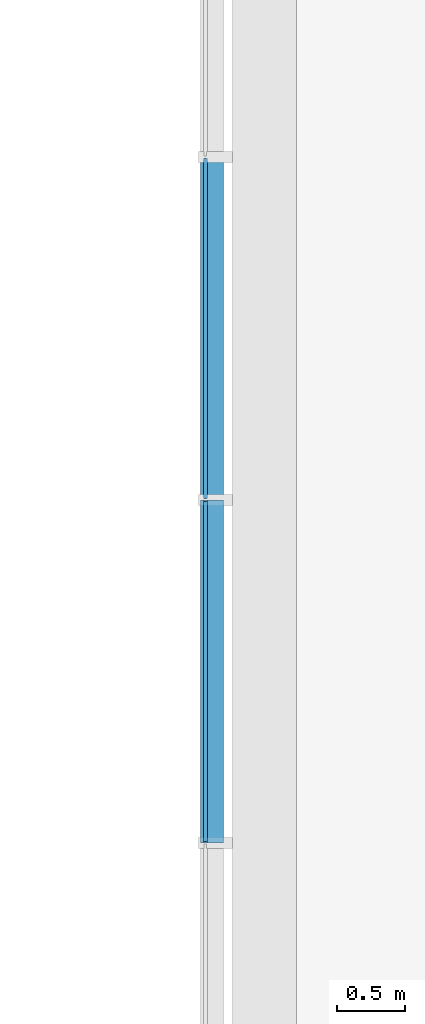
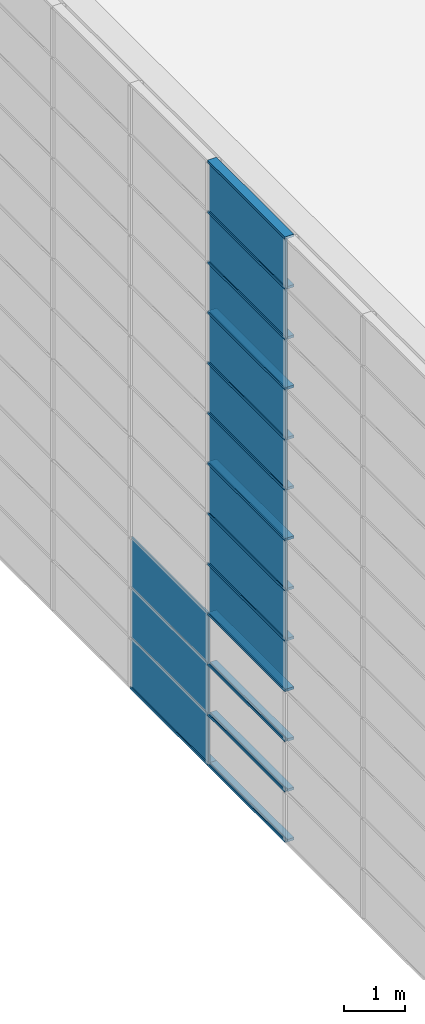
# One storey, part 8 of 105: 29 building element parts, 4 elements without a shape of their own.
"""IFC4 building model written with IfcOpenShell, lengths in millimetres."""

from ifc_helpers import new_model, entity, si_unit, converted_unit, derived_unit, direction, frame, origin_with_axes, place, context, subcontext, project, spatial, triangles, material, element, aggregate, save


model = new_model("IFC4")

# Units and contexts
model_context = context("Model", 3, precision=1e-05, world=origin_with_axes(), true_north=direction((0.0, 1.0)))
body_context = subcontext(model_context, "Body", "Model", "MODEL_VIEW")
ifc_project = project(units=[si_unit("LENGTHUNIT", "METRE", prefix="MILLI"), si_unit("AREAUNIT", "SQUARE_METRE"), si_unit("VOLUMEUNIT", "CUBIC_METRE"), converted_unit("PLANEANGLEUNIT", "DEGREE", entity("IfcLengthMeasure", 0.017453), si_unit("PLANEANGLEUNIT", "RADIAN"), dimensions=[0, 0, 0, 0, 0, 0, 0]), si_unit("SOLIDANGLEUNIT", "STERADIAN"), si_unit("MASSUNIT", "GRAM"), si_unit("TIMEUNIT", "SECOND"), si_unit("THERMODYNAMICTEMPERATUREUNIT", "DEGREE_CELSIUS"), si_unit("LUMINOUSINTENSITYUNIT", "LUMEN"), si_unit("POWERUNIT", "WATT"), derived_unit("THERMALTRANSMITTANCEUNIT", [(si_unit("POWERUNIT", "WATT"), 1), (si_unit("THERMODYNAMICTEMPERATUREUNIT", "KELVIN"), -1), (si_unit("AREAUNIT", "SQUARE_METRE"), -1)])], contexts=[model_context])

# Site, building, storey
site_placement = place(None, origin_with_axes())
site = spatial("IfcSite", under=ifc_project, at=site_placement, Name="Default Site", CompositionType="ELEMENT")
building_placement = place(site_placement, origin_with_axes())
building = spatial("IfcBuilding", under=site, at=building_placement, Name="Default Building", CompositionType="ELEMENT")
storey_placement = place(building_placement, origin_with_axes())
storey = spatial("IfcBuildingStorey", under=building, at=storey_placement, Name="OG - Story", CompositionType="ELEMENT", Elevation=0.0)

# Curtain wall, building element parts
curtain_wall_1_placement = place(storey_placement, origin_with_axes())
curtain_wall_1 = element("IfcCurtainWall", 1, at=curtain_wall_1_placement, inside=storey, Name="Fassade-003", PredefinedType="NOTDEFINED")
ifc_material_1 = material(Name="Normalglas")
building_element_part_1_placement = place(curtain_wall_1_placement, frame((31551.391327, -51326.104944, 0.0), z_axis=(0.0, 0.0, 1.0), x_axis=(1.0, 0.0, 0.0)))
building_element_part_1 = element("IfcBuildingElementPart", 2, at=building_element_part_1_placement, material=ifc_material_1, Name="Normalglas", PredefinedType="NOTDEFINED", context=body_context, shape_type="Tessellation", body=[
    triangles([(15.0, 8832.105, 995.0), (-14.999, 8832.105, 995.0), (-14.999, 6325.789, 995.0), (15.0, 6325.789, 995.0), (15.0, 8832.105, 5.0), (-14.999, 8832.105, 5.0), (-14.999, 6325.789, 5.0), (15.0, 6325.789, 5.0)], [[1, 2, 3], [1, 3, 4], [5, 6, 2], [5, 2, 1], [2, 6, 7], [2, 7, 3], [4, 3, 7], [4, 7, 8], [1, 4, 8], [1, 8, 5], [8, 7, 6], [8, 6, 5]], closed=False),
])
building_element_part_2_placement = place(curtain_wall_1_placement, frame((31551.391327, -51326.104944, 0.0), z_axis=(0.0, 0.0, 1.0), x_axis=(1.0, 0.0, 0.0)))
building_element_part_2 = element("IfcBuildingElementPart", 3, at=building_element_part_2_placement, material=ifc_material_1, Name="Normalglas", PredefinedType="NOTDEFINED", context=body_context, shape_type="Tessellation", body=[
    triangles([(15.0, 8832.105, 1995.0), (-14.999, 8832.105, 1995.0), (-14.999, 6325.789, 1995.0), (15.0, 6325.789, 1995.0), (15.0, 8832.105, 1005.0), (-14.999, 8832.105, 1005.0), (-14.999, 6325.789, 1005.0), (15.0, 6325.789, 1005.0)], [[1, 2, 3], [1, 3, 4], [5, 6, 2], [5, 2, 1], [2, 6, 7], [2, 7, 3], [4, 3, 7], [4, 7, 8], [1, 4, 8], [1, 8, 5], [8, 7, 6], [8, 6, 5]], closed=False),
])
building_element_part_3_placement = place(curtain_wall_1_placement, frame((31551.391327, -51326.104944, 0.0), z_axis=(0.0, 0.0, 1.0), x_axis=(1.0, 0.0, 0.0)))
building_element_part_3 = element("IfcBuildingElementPart", 4, at=building_element_part_3_placement, material=ifc_material_1, Name="Normalglas", PredefinedType="NOTDEFINED", context=body_context, shape_type="Tessellation", body=[
    triangles([(15.0, 8832.105, 2995.0), (-14.999, 8832.105, 2995.0), (-14.999, 6325.789, 2995.0), (15.0, 6325.789, 2995.0), (15.0, 8832.105, 2005.0), (-14.999, 8832.105, 2005.0), (-14.999, 6325.789, 2005.0), (15.0, 6325.789, 2005.0)], [[1, 2, 3], [1, 3, 4], [5, 6, 2], [5, 2, 1], [2, 6, 7], [2, 7, 3], [4, 3, 7], [4, 7, 8], [1, 4, 8], [1, 8, 5], [8, 7, 6], [8, 6, 5]], closed=False),
])
ifc_material_2 = material(Name="Blech")
building_element_part_4_placement = place(curtain_wall_1_placement, frame((31551.391327, -51326.104944, 0.0), z_axis=(0.0, 0.0, 1.0), x_axis=(1.0, 0.0, 0.0)))
building_element_part_4 = element("IfcBuildingElementPart", 5, at=building_element_part_4_placement, material=ifc_material_2, Name="Blech", PredefinedType="NOTDEFINED", context=body_context, shape_type="Tessellation", body=[
    triangles([(15.0, 6315.789, 25.0), (133.0, 6315.789, 25.0), (15.0, 6315.789, 5.0), (133.0, 6315.789, -24.999), (-14.999, 6315.789, 5.0), (-34.999, 6315.789, -24.999), (-34.999, 6315.789, 25.0), (-14.999, 6315.789, 25.0), (15.0, 3789.474, 5.0), (15.0, 3789.474, 25.0), (133.0, 3789.474, 25.0), (133.0, 3789.474, -24.999), (-34.999, 3789.474, -24.999), (-34.999, 3789.474, 25.0), (-14.999, 3789.474, 25.0), (-14.999, 3789.474, 5.0)], [[1, 2, 3], [3, 2, 4], [3, 4, 5], [5, 4, 6], [5, 6, 7], [5, 7, 8], [3, 9, 10], [3, 10, 1], [10, 11, 2], [10, 2, 1], [11, 12, 4], [11, 4, 2], [12, 13, 6], [12, 6, 4], [13, 14, 7], [13, 7, 6], [8, 7, 14], [8, 14, 15], [15, 16, 5], [15, 5, 8], [5, 16, 9], [5, 9, 3], [16, 9, 12], [16, 12, 13], [16, 13, 14], [16, 14, 15], [11, 12, 9], [11, 9, 10]], closed=False),
])
building_element_part_5_placement = place(curtain_wall_1_placement, frame((31551.391327, -51326.104944, 0.0), z_axis=(0.0, 0.0, 1.0), x_axis=(1.0, 0.0, 0.0)))
building_element_part_5 = element("IfcBuildingElementPart", 6, at=building_element_part_5_placement, material=ifc_material_2, Name="Blech", PredefinedType="NOTDEFINED", context=body_context, shape_type="Tessellation", body=[
    triangles([(15.0, 8842.105, 25.0), (133.0, 8842.105, 25.0), (15.0, 8842.105, 5.0), (133.0, 8842.105, -24.999), (-14.999, 8842.105, 5.0), (-34.999, 8842.105, -24.999), (-34.999, 8842.105, 25.0), (-14.999, 8842.105, 25.0), (15.0, 6315.789, 5.0), (15.0, 6315.789, 25.0), (133.0, 6315.789, 25.0), (133.0, 6315.789, -24.999), (-34.999, 6315.789, -24.999), (-34.999, 6315.789, 25.0), (-14.999, 6315.789, 25.0), (-14.999, 6315.789, 5.0)], [[1, 2, 3], [3, 2, 4], [3, 4, 5], [5, 4, 6], [5, 6, 7], [5, 7, 8], [3, 9, 10], [3, 10, 1], [10, 11, 2], [10, 2, 1], [11, 12, 4], [11, 4, 2], [12, 13, 6], [12, 6, 4], [13, 14, 7], [13, 7, 6], [8, 7, 14], [8, 14, 15], [15, 16, 5], [15, 5, 8], [5, 16, 9], [5, 9, 3], [16, 9, 12], [16, 12, 13], [16, 13, 14], [16, 14, 15], [11, 12, 9], [11, 9, 10]], closed=False),
])
building_element_part_6_placement = place(curtain_wall_1_placement, frame((31551.391327, -51326.104944, 0.0), z_axis=(0.0, 0.0, 1.0), x_axis=(1.0, 0.0, 0.0)))
building_element_part_6 = element("IfcBuildingElementPart", 7, at=building_element_part_6_placement, material=ifc_material_2, Name="Blech", PredefinedType="NOTDEFINED", context=body_context, shape_type="Tessellation", body=[
    triangles([(-14.999, 6315.789, 1025.0), (-34.999, 6315.789, 1025.0), (-14.999, 6315.789, 1005.0), (-14.999, 6315.789, 995.0), (15.0, 6315.789, 1005.0), (133.0, 6315.789, 1025.0), (15.0, 6315.789, 1025.0), (-34.999, 6315.789, 975.0), (-14.999, 6315.789, 975.0), (15.0, 6315.789, 995.0), (15.0, 6315.789, 975.0), (133.0, 6315.789, 975.0), (15.0, 3789.474, 995.0), (-14.999, 3789.474, 995.0), (-14.999, 3789.474, 975.0), (-34.999, 3789.474, 975.0), (-34.999, 3789.474, 1025.0), (-14.999, 3789.474, 1025.0), (-14.999, 3789.474, 1005.0), (15.0, 3789.474, 1005.0), (15.0, 3789.474, 1025.0), (133.0, 3789.474, 1025.0), (133.0, 3789.474, 975.0), (15.0, 3789.474, 975.0)], [[1, 2, 3], [3, 2, 4], [3, 4, 5], [5, 4, 6], [5, 6, 7], [8, 9, 4], [8, 4, 2], [6, 4, 10], [6, 10, 11], [6, 11, 12], [10, 13, 14], [10, 14, 4], [4, 14, 15], [4, 15, 9], [15, 16, 8], [15, 8, 9], [8, 16, 17], [8, 17, 2], [18, 1, 2], [18, 2, 17], [1, 18, 19], [1, 19, 3], [5, 3, 19], [5, 19, 20], [7, 5, 20], [7, 20, 21], [7, 21, 22], [7, 22, 6], [6, 22, 23], [6, 23, 12], [11, 12, 23], [11, 23, 24], [11, 24, 13], [11, 13, 10], [21, 22, 20], [20, 22, 13], [20, 13, 19], [19, 13, 14], [19, 14, 17], [17, 14, 15], [17, 15, 16], [23, 24, 13], [23, 13, 22], [19, 17, 18]], closed=False),
])
building_element_part_7_placement = place(curtain_wall_1_placement, frame((31551.391327, -51326.104944, 0.0), z_axis=(0.0, 0.0, 1.0), x_axis=(1.0, 0.0, 0.0)))
building_element_part_7 = element("IfcBuildingElementPart", 8, at=building_element_part_7_placement, material=ifc_material_2, Name="Blech", PredefinedType="NOTDEFINED", context=body_context, shape_type="Tessellation", body=[
    triangles([(-14.999, 6315.789, 2025.0), (-34.999, 6315.789, 2025.0), (-14.999, 6315.789, 2005.0), (-14.999, 6315.789, 1995.0), (15.0, 6315.789, 2005.0), (133.0, 6315.789, 2025.0), (15.0, 6315.789, 2025.0), (-34.999, 6315.789, 1975.0), (-14.999, 6315.789, 1975.0), (15.0, 6315.789, 1995.0), (15.0, 6315.789, 1975.0), (133.0, 6315.789, 1975.0), (15.0, 3789.474, 1995.0), (-14.999, 3789.474, 1995.0), (-14.999, 3789.474, 1975.0), (-34.999, 3789.474, 1975.0), (-34.999, 3789.474, 2025.0), (-14.999, 3789.474, 2025.0), (-14.999, 3789.474, 2005.0), (15.0, 3789.474, 2005.0), (15.0, 3789.474, 2025.0), (133.0, 3789.474, 2025.0), (133.0, 3789.474, 1975.0), (15.0, 3789.474, 1975.0)], [[1, 2, 3], [3, 2, 4], [3, 4, 5], [5, 4, 6], [5, 6, 7], [8, 9, 4], [8, 4, 2], [6, 4, 10], [6, 10, 11], [6, 11, 12], [10, 13, 14], [10, 14, 4], [4, 14, 15], [4, 15, 9], [15, 16, 8], [15, 8, 9], [8, 16, 17], [8, 17, 2], [18, 1, 2], [18, 2, 17], [1, 18, 19], [1, 19, 3], [5, 3, 19], [5, 19, 20], [7, 5, 20], [7, 20, 21], [7, 21, 22], [7, 22, 6], [6, 22, 23], [6, 23, 12], [11, 12, 23], [11, 23, 24], [11, 24, 13], [11, 13, 10], [21, 22, 20], [20, 22, 13], [20, 13, 19], [19, 13, 14], [19, 14, 17], [17, 14, 15], [17, 15, 16], [23, 24, 13], [23, 13, 22], [19, 17, 18]], closed=False),
])
building_element_part_8_placement = place(curtain_wall_1_placement, frame((31551.391327, -51326.104944, 0.0), z_axis=(0.0, 0.0, 1.0), x_axis=(1.0, 0.0, 0.0)))
building_element_part_8 = element("IfcBuildingElementPart", 9, at=building_element_part_8_placement, material=ifc_material_2, Name="Blech", PredefinedType="NOTDEFINED", context=body_context, shape_type="Tessellation", body=[
    triangles([(-14.999, 6315.789, 2995.0), (15.0, 6315.789, 2995.0), (133.0, 6315.789, 3025.0), (-34.999, 6315.789, 3025.0), (-34.999, 6315.789, 2975.0), (-14.999, 6315.789, 2975.0), (15.0, 6315.789, 2975.0), (133.0, 6315.789, 2975.0), (15.0, 3789.474, 2995.0), (-14.999, 3789.474, 2995.0), (-14.999, 3789.474, 2975.0), (-34.999, 3789.474, 2975.0), (-34.999, 3789.474, 3025.0), (133.0, 3789.474, 3025.0), (133.0, 3789.474, 2975.0), (15.0, 3789.474, 2975.0)], [[1, 2, 3], [1, 3, 4], [1, 4, 5], [1, 5, 6], [7, 8, 3], [7, 3, 2], [1, 2, 9], [1, 9, 10], [11, 6, 1], [11, 1, 10], [6, 11, 12], [6, 12, 5], [13, 4, 5], [13, 5, 12], [14, 3, 4], [14, 4, 13], [15, 8, 3], [15, 3, 14], [16, 7, 8], [16, 8, 15], [2, 7, 16], [2, 16, 9], [10, 9, 14], [10, 14, 13], [10, 13, 12], [10, 12, 11], [16, 15, 14], [16, 14, 9]], closed=False),
])
aggregate(curtain_wall_1, [building_element_part_1, building_element_part_2, building_element_part_3, building_element_part_4, building_element_part_5, building_element_part_6, building_element_part_7, building_element_part_8])

curtain_wall_2_placement = place(storey_placement, origin_with_axes())
curtain_wall_2 = element("IfcCurtainWall", 10, at=curtain_wall_2_placement, inside=storey, Name="Fassade-003", PredefinedType="NOTDEFINED")
building_element_part_9_placement = place(curtain_wall_2_placement, frame((31551.391327, -51326.104944, 3000.0), z_axis=(0.0, 0.0, 1.0), x_axis=(1.0, 0.0, 0.0)))
building_element_part_9 = element("IfcBuildingElementPart", 11, at=building_element_part_9_placement, material=ifc_material_1, Name="Normalglas", PredefinedType="NOTDEFINED", context=body_context, shape_type="Tessellation", body=[
    triangles([(15.0, 6305.789, 995.0), (-14.999, 6305.789, 995.0), (-14.999, 3799.474, 995.0), (15.0, 3799.474, 995.0), (15.0, 6305.789, 5.0), (-14.999, 6305.789, 5.0), (-14.999, 3799.474, 5.0), (15.0, 3799.474, 5.0)], [[1, 2, 3], [1, 3, 4], [5, 6, 2], [5, 2, 1], [2, 6, 7], [2, 7, 3], [4, 3, 7], [4, 7, 8], [1, 4, 8], [1, 8, 5], [8, 7, 6], [8, 6, 5]], closed=False),
])
building_element_part_10_placement = place(curtain_wall_2_placement, frame((31551.391327, -51326.104944, 3000.0), z_axis=(0.0, 0.0, 1.0), x_axis=(1.0, 0.0, 0.0)))
building_element_part_10 = element("IfcBuildingElementPart", 12, at=building_element_part_10_placement, material=ifc_material_1, Name="Normalglas", PredefinedType="NOTDEFINED", context=body_context, shape_type="Tessellation", body=[
    triangles([(15.0, 6305.789, 1995.0), (-14.999, 6305.789, 1995.0), (-14.999, 3799.474, 1995.0), (15.0, 3799.474, 1995.0), (15.0, 6305.789, 1005.0), (-14.999, 6305.789, 1005.0), (-14.999, 3799.474, 1005.0), (15.0, 3799.474, 1005.0)], [[1, 2, 3], [1, 3, 4], [5, 6, 2], [5, 2, 1], [2, 6, 7], [2, 7, 3], [4, 3, 7], [4, 7, 8], [1, 4, 8], [1, 8, 5], [8, 7, 6], [8, 6, 5]], closed=False),
])
building_element_part_11_placement = place(curtain_wall_2_placement, frame((31551.391327, -51326.104944, 3000.0), z_axis=(0.0, 0.0, 1.0), x_axis=(1.0, 0.0, 0.0)))
building_element_part_11 = element("IfcBuildingElementPart", 13, at=building_element_part_11_placement, material=ifc_material_1, Name="Normalglas", PredefinedType="NOTDEFINED", context=body_context, shape_type="Tessellation", body=[
    triangles([(15.0, 6305.789, 2995.0), (-14.999, 6305.789, 2995.0), (-14.999, 3799.474, 2995.0), (15.0, 3799.474, 2995.0), (15.0, 6305.789, 2005.0), (-14.999, 6305.789, 2005.0), (-14.999, 3799.474, 2005.0), (15.0, 3799.474, 2005.0)], [[1, 2, 3], [1, 3, 4], [5, 6, 2], [5, 2, 1], [2, 6, 7], [2, 7, 3], [4, 3, 7], [4, 7, 8], [1, 4, 8], [1, 8, 5], [8, 7, 6], [8, 6, 5]], closed=False),
])
building_element_part_12_placement = place(curtain_wall_2_placement, frame((31551.391327, -51326.104944, 3000.0), z_axis=(0.0, 0.0, 1.0), x_axis=(1.0, 0.0, 0.0)))
building_element_part_12 = element("IfcBuildingElementPart", 14, at=building_element_part_12_placement, material=ifc_material_2, Name="Blech", PredefinedType="NOTDEFINED", context=body_context, shape_type="Tessellation", body=[
    triangles([(15.0, 6315.789, 25.0), (133.0, 6315.789, 25.0), (15.0, 6315.789, 5.0), (133.0, 6315.789, -24.999), (-14.999, 6315.789, 5.0), (-34.999, 6315.789, -24.999), (-34.999, 6315.789, 25.0), (-14.999, 6315.789, 25.0), (15.0, 3789.474, 5.0), (15.0, 3789.474, 25.0), (133.0, 3789.474, 25.0), (133.0, 3789.474, -24.999), (-34.999, 3789.474, -24.999), (-34.999, 3789.474, 25.0), (-14.999, 3789.474, 25.0), (-14.999, 3789.474, 5.0)], [[1, 2, 3], [3, 2, 4], [3, 4, 5], [5, 4, 6], [5, 6, 7], [5, 7, 8], [3, 9, 10], [3, 10, 1], [10, 11, 2], [10, 2, 1], [11, 12, 4], [11, 4, 2], [12, 13, 6], [12, 6, 4], [13, 14, 7], [13, 7, 6], [8, 7, 14], [8, 14, 15], [15, 16, 5], [15, 5, 8], [5, 16, 9], [5, 9, 3], [16, 9, 12], [16, 12, 13], [16, 13, 14], [16, 14, 15], [11, 12, 9], [11, 9, 10]], closed=False),
])
building_element_part_13_placement = place(curtain_wall_2_placement, frame((31551.391327, -51326.104944, 3000.0), z_axis=(0.0, 0.0, 1.0), x_axis=(1.0, 0.0, 0.0)))
building_element_part_13 = element("IfcBuildingElementPart", 15, at=building_element_part_13_placement, material=ifc_material_2, Name="Blech", PredefinedType="NOTDEFINED", context=body_context, shape_type="Tessellation", body=[
    triangles([(-14.999, 6315.789, 1025.0), (-34.999, 6315.789, 1025.0), (-14.999, 6315.789, 1005.0), (-14.999, 6315.789, 995.0), (15.0, 6315.789, 1005.0), (133.0, 6315.789, 1025.0), (15.0, 6315.789, 1025.0), (-34.999, 6315.789, 975.0), (-14.999, 6315.789, 975.0), (15.0, 6315.789, 995.0), (15.0, 6315.789, 975.0), (133.0, 6315.789, 975.0), (15.0, 3789.474, 995.0), (-14.999, 3789.474, 995.0), (-14.999, 3789.474, 975.0), (-34.999, 3789.474, 975.0), (-34.999, 3789.474, 1025.0), (-14.999, 3789.474, 1025.0), (-14.999, 3789.474, 1005.0), (15.0, 3789.474, 1005.0), (15.0, 3789.474, 1025.0), (133.0, 3789.474, 1025.0), (133.0, 3789.474, 975.0), (15.0, 3789.474, 975.0)], [[1, 2, 3], [3, 2, 4], [3, 4, 5], [5, 4, 6], [5, 6, 7], [8, 9, 4], [8, 4, 2], [6, 4, 10], [6, 10, 11], [6, 11, 12], [10, 13, 14], [10, 14, 4], [4, 14, 15], [4, 15, 9], [15, 16, 8], [15, 8, 9], [8, 16, 17], [8, 17, 2], [18, 1, 2], [18, 2, 17], [1, 18, 19], [1, 19, 3], [5, 3, 19], [5, 19, 20], [7, 5, 20], [7, 20, 21], [7, 21, 22], [7, 22, 6], [6, 22, 23], [6, 23, 12], [11, 12, 23], [11, 23, 24], [11, 24, 13], [11, 13, 10], [21, 22, 20], [20, 22, 13], [20, 13, 19], [19, 13, 14], [19, 14, 17], [17, 14, 15], [17, 15, 16], [23, 24, 13], [23, 13, 22], [19, 17, 18]], closed=False),
])
building_element_part_14_placement = place(curtain_wall_2_placement, frame((31551.391327, -51326.104944, 3000.0), z_axis=(0.0, 0.0, 1.0), x_axis=(1.0, 0.0, 0.0)))
building_element_part_14 = element("IfcBuildingElementPart", 16, at=building_element_part_14_placement, material=ifc_material_2, Name="Blech", PredefinedType="NOTDEFINED", context=body_context, shape_type="Tessellation", body=[
    triangles([(-14.999, 6315.789, 2025.0), (-34.999, 6315.789, 2025.0), (-14.999, 6315.789, 2005.0), (-14.999, 6315.789, 1995.0), (15.0, 6315.789, 2005.0), (133.0, 6315.789, 2025.0), (15.0, 6315.789, 2025.0), (-34.999, 6315.789, 1975.0), (-14.999, 6315.789, 1975.0), (15.0, 6315.789, 1995.0), (15.0, 6315.789, 1975.0), (133.0, 6315.789, 1975.0), (15.0, 3789.474, 1995.0), (-14.999, 3789.474, 1995.0), (-14.999, 3789.474, 1975.0), (-34.999, 3789.474, 1975.0), (-34.999, 3789.474, 2025.0), (-14.999, 3789.474, 2025.0), (-14.999, 3789.474, 2005.0), (15.0, 3789.474, 2005.0), (15.0, 3789.474, 2025.0), (133.0, 3789.474, 2025.0), (133.0, 3789.474, 1975.0), (15.0, 3789.474, 1975.0)], [[1, 2, 3], [3, 2, 4], [3, 4, 5], [5, 4, 6], [5, 6, 7], [8, 9, 4], [8, 4, 2], [6, 4, 10], [6, 10, 11], [6, 11, 12], [10, 13, 14], [10, 14, 4], [4, 14, 15], [4, 15, 9], [15, 16, 8], [15, 8, 9], [8, 16, 17], [8, 17, 2], [18, 1, 2], [18, 2, 17], [1, 18, 19], [1, 19, 3], [5, 3, 19], [5, 19, 20], [7, 5, 20], [7, 20, 21], [7, 21, 22], [7, 22, 6], [6, 22, 23], [6, 23, 12], [11, 12, 23], [11, 23, 24], [11, 24, 13], [11, 13, 10], [21, 22, 20], [20, 22, 13], [20, 13, 19], [19, 13, 14], [19, 14, 17], [17, 14, 15], [17, 15, 16], [23, 24, 13], [23, 13, 22], [19, 17, 18]], closed=False),
])
building_element_part_15_placement = place(curtain_wall_2_placement, frame((31551.391327, -51326.104944, 3000.0), z_axis=(0.0, 0.0, 1.0), x_axis=(1.0, 0.0, 0.0)))
building_element_part_15 = element("IfcBuildingElementPart", 17, at=building_element_part_15_placement, material=ifc_material_2, Name="Blech", PredefinedType="NOTDEFINED", context=body_context, shape_type="Tessellation", body=[
    triangles([(-14.999, 6315.789, 2995.0), (15.0, 6315.789, 2995.0), (133.0, 6315.789, 3025.0), (-34.999, 6315.789, 3025.0), (-34.999, 6315.789, 2975.0), (-14.999, 6315.789, 2975.0), (15.0, 6315.789, 2975.0), (133.0, 6315.789, 2975.0), (15.0, 3789.474, 2995.0), (-14.999, 3789.474, 2995.0), (-14.999, 3789.474, 2975.0), (-34.999, 3789.474, 2975.0), (-34.999, 3789.474, 3025.0), (133.0, 3789.474, 3025.0), (133.0, 3789.474, 2975.0), (15.0, 3789.474, 2975.0)], [[1, 2, 3], [1, 3, 4], [1, 4, 5], [1, 5, 6], [7, 8, 3], [7, 3, 2], [1, 2, 9], [1, 9, 10], [11, 6, 1], [11, 1, 10], [6, 11, 12], [6, 12, 5], [13, 4, 5], [13, 5, 12], [14, 3, 4], [14, 4, 13], [15, 8, 3], [15, 3, 14], [16, 7, 8], [16, 8, 15], [2, 7, 16], [2, 16, 9], [10, 9, 14], [10, 14, 13], [10, 13, 12], [10, 12, 11], [16, 15, 14], [16, 14, 9]], closed=False),
])
aggregate(curtain_wall_2, [building_element_part_9, building_element_part_10, building_element_part_11, building_element_part_12, building_element_part_13, building_element_part_14, building_element_part_15])

curtain_wall_3_placement = place(storey_placement, origin_with_axes())
curtain_wall_3 = element("IfcCurtainWall", 18, at=curtain_wall_3_placement, inside=storey, Name="Fassade-003", PredefinedType="NOTDEFINED")
building_element_part_16_placement = place(curtain_wall_3_placement, frame((31551.391327, -51326.104944, 6000.0), z_axis=(0.0, 0.0, 1.0), x_axis=(1.0, 0.0, 0.0)))
building_element_part_16 = element("IfcBuildingElementPart", 19, at=building_element_part_16_placement, material=ifc_material_1, Name="Normalglas", PredefinedType="NOTDEFINED", context=body_context, shape_type="Tessellation", body=[
    triangles([(15.0, 6305.789, 995.0), (-14.999, 6305.789, 995.0), (-14.999, 3799.474, 995.0), (15.0, 3799.474, 995.0), (15.0, 6305.789, 5.0), (-14.999, 6305.789, 5.0), (-14.999, 3799.474, 5.0), (15.0, 3799.474, 5.0)], [[1, 2, 3], [1, 3, 4], [5, 6, 2], [5, 2, 1], [2, 6, 7], [2, 7, 3], [4, 3, 7], [4, 7, 8], [1, 4, 8], [1, 8, 5], [8, 7, 6], [8, 6, 5]], closed=False),
])
building_element_part_17_placement = place(curtain_wall_3_placement, frame((31551.391327, -51326.104944, 6000.0), z_axis=(0.0, 0.0, 1.0), x_axis=(1.0, 0.0, 0.0)))
building_element_part_17 = element("IfcBuildingElementPart", 20, at=building_element_part_17_placement, material=ifc_material_1, Name="Normalglas", PredefinedType="NOTDEFINED", context=body_context, shape_type="Tessellation", body=[
    triangles([(15.0, 6305.789, 1995.0), (-14.999, 6305.789, 1995.0), (-14.999, 3799.474, 1995.0), (15.0, 3799.474, 1995.0), (15.0, 6305.789, 1005.0), (-14.999, 6305.789, 1005.0), (-14.999, 3799.474, 1005.0), (15.0, 3799.474, 1005.0)], [[1, 2, 3], [1, 3, 4], [5, 6, 2], [5, 2, 1], [2, 6, 7], [2, 7, 3], [4, 3, 7], [4, 7, 8], [1, 4, 8], [1, 8, 5], [8, 7, 6], [8, 6, 5]], closed=False),
])
building_element_part_18_placement = place(curtain_wall_3_placement, frame((31551.391327, -51326.104944, 6000.0), z_axis=(0.0, 0.0, 1.0), x_axis=(1.0, 0.0, 0.0)))
building_element_part_18 = element("IfcBuildingElementPart", 21, at=building_element_part_18_placement, material=ifc_material_1, Name="Normalglas", PredefinedType="NOTDEFINED", context=body_context, shape_type="Tessellation", body=[
    triangles([(15.0, 6305.789, 2995.0), (-14.999, 6305.789, 2995.0), (-14.999, 3799.474, 2995.0), (15.0, 3799.474, 2995.0), (15.0, 6305.789, 2005.0), (-14.999, 6305.789, 2005.0), (-14.999, 3799.474, 2005.0), (15.0, 3799.474, 2005.0)], [[1, 2, 3], [1, 3, 4], [5, 6, 2], [5, 2, 1], [2, 6, 7], [2, 7, 3], [4, 3, 7], [4, 7, 8], [1, 4, 8], [1, 8, 5], [8, 7, 6], [8, 6, 5]], closed=False),
])
building_element_part_19_placement = place(curtain_wall_3_placement, frame((31551.391327, -51326.104944, 6000.0), z_axis=(0.0, 0.0, 1.0), x_axis=(1.0, 0.0, 0.0)))
building_element_part_19 = element("IfcBuildingElementPart", 22, at=building_element_part_19_placement, material=ifc_material_2, Name="Blech", PredefinedType="NOTDEFINED", context=body_context, shape_type="Tessellation", body=[
    triangles([(15.0, 6315.789, 25.0), (133.0, 6315.789, 25.0), (15.0, 6315.789, 5.0), (133.0, 6315.789, -24.999), (-14.999, 6315.789, 5.0), (-34.999, 6315.789, -24.999), (-34.999, 6315.789, 25.0), (-14.999, 6315.789, 25.0), (15.0, 3789.474, 5.0), (15.0, 3789.474, 25.0), (133.0, 3789.474, 25.0), (133.0, 3789.474, -24.999), (-34.999, 3789.474, -24.999), (-34.999, 3789.474, 25.0), (-14.999, 3789.474, 25.0), (-14.999, 3789.474, 5.0)], [[1, 2, 3], [3, 2, 4], [3, 4, 5], [5, 4, 6], [5, 6, 7], [5, 7, 8], [3, 9, 10], [3, 10, 1], [10, 11, 2], [10, 2, 1], [11, 12, 4], [11, 4, 2], [12, 13, 6], [12, 6, 4], [13, 14, 7], [13, 7, 6], [8, 7, 14], [8, 14, 15], [15, 16, 5], [15, 5, 8], [5, 16, 9], [5, 9, 3], [16, 9, 12], [16, 12, 13], [16, 13, 14], [16, 14, 15], [11, 12, 9], [11, 9, 10]], closed=False),
])
building_element_part_20_placement = place(curtain_wall_3_placement, frame((31551.391327, -51326.104944, 6000.0), z_axis=(0.0, 0.0, 1.0), x_axis=(1.0, 0.0, 0.0)))
building_element_part_20 = element("IfcBuildingElementPart", 23, at=building_element_part_20_placement, material=ifc_material_2, Name="Blech", PredefinedType="NOTDEFINED", context=body_context, shape_type="Tessellation", body=[
    triangles([(-14.999, 6315.789, 1025.0), (-34.999, 6315.789, 1025.0), (-14.999, 6315.789, 1005.0), (-14.999, 6315.789, 995.0), (15.0, 6315.789, 1005.0), (133.0, 6315.789, 1025.0), (15.0, 6315.789, 1025.0), (-34.999, 6315.789, 975.0), (-14.999, 6315.789, 975.0), (15.0, 6315.789, 995.0), (15.0, 6315.789, 975.0), (133.0, 6315.789, 975.0), (15.0, 3789.474, 995.0), (-14.999, 3789.474, 995.0), (-14.999, 3789.474, 975.0), (-34.999, 3789.474, 975.0), (-34.999, 3789.474, 1025.0), (-14.999, 3789.474, 1025.0), (-14.999, 3789.474, 1005.0), (15.0, 3789.474, 1005.0), (15.0, 3789.474, 1025.0), (133.0, 3789.474, 1025.0), (133.0, 3789.474, 975.0), (15.0, 3789.474, 975.0)], [[1, 2, 3], [3, 2, 4], [3, 4, 5], [5, 4, 6], [5, 6, 7], [8, 9, 4], [8, 4, 2], [6, 4, 10], [6, 10, 11], [6, 11, 12], [10, 13, 14], [10, 14, 4], [4, 14, 15], [4, 15, 9], [15, 16, 8], [15, 8, 9], [8, 16, 17], [8, 17, 2], [18, 1, 2], [18, 2, 17], [1, 18, 19], [1, 19, 3], [5, 3, 19], [5, 19, 20], [7, 5, 20], [7, 20, 21], [7, 21, 22], [7, 22, 6], [6, 22, 23], [6, 23, 12], [11, 12, 23], [11, 23, 24], [11, 24, 13], [11, 13, 10], [21, 22, 20], [20, 22, 13], [20, 13, 19], [19, 13, 14], [19, 14, 17], [17, 14, 15], [17, 15, 16], [23, 24, 13], [23, 13, 22], [19, 17, 18]], closed=False),
])
building_element_part_21_placement = place(curtain_wall_3_placement, frame((31551.391327, -51326.104944, 6000.0), z_axis=(0.0, 0.0, 1.0), x_axis=(1.0, 0.0, 0.0)))
building_element_part_21 = element("IfcBuildingElementPart", 24, at=building_element_part_21_placement, material=ifc_material_2, Name="Blech", PredefinedType="NOTDEFINED", context=body_context, shape_type="Tessellation", body=[
    triangles([(-14.999, 6315.789, 2025.0), (-34.999, 6315.789, 2025.0), (-14.999, 6315.789, 2005.0), (-14.999, 6315.789, 1995.0), (15.0, 6315.789, 2005.0), (133.0, 6315.789, 2025.0), (15.0, 6315.789, 2025.0), (-34.999, 6315.789, 1975.0), (-14.999, 6315.789, 1975.0), (15.0, 6315.789, 1995.0), (15.0, 6315.789, 1975.0), (133.0, 6315.789, 1975.0), (15.0, 3789.474, 1995.0), (-14.999, 3789.474, 1995.0), (-14.999, 3789.474, 1975.0), (-34.999, 3789.474, 1975.0), (-34.999, 3789.474, 2025.0), (-14.999, 3789.474, 2025.0), (-14.999, 3789.474, 2005.0), (15.0, 3789.474, 2005.0), (15.0, 3789.474, 2025.0), (133.0, 3789.474, 2025.0), (133.0, 3789.474, 1975.0), (15.0, 3789.474, 1975.0)], [[1, 2, 3], [3, 2, 4], [3, 4, 5], [5, 4, 6], [5, 6, 7], [8, 9, 4], [8, 4, 2], [6, 4, 10], [6, 10, 11], [6, 11, 12], [10, 13, 14], [10, 14, 4], [4, 14, 15], [4, 15, 9], [15, 16, 8], [15, 8, 9], [8, 16, 17], [8, 17, 2], [18, 1, 2], [18, 2, 17], [1, 18, 19], [1, 19, 3], [5, 3, 19], [5, 19, 20], [7, 5, 20], [7, 20, 21], [7, 21, 22], [7, 22, 6], [6, 22, 23], [6, 23, 12], [11, 12, 23], [11, 23, 24], [11, 24, 13], [11, 13, 10], [21, 22, 20], [20, 22, 13], [20, 13, 19], [19, 13, 14], [19, 14, 17], [17, 14, 15], [17, 15, 16], [23, 24, 13], [23, 13, 22], [19, 17, 18]], closed=False),
])
building_element_part_22_placement = place(curtain_wall_3_placement, frame((31551.391327, -51326.104944, 6000.0), z_axis=(0.0, 0.0, 1.0), x_axis=(1.0, 0.0, 0.0)))
building_element_part_22 = element("IfcBuildingElementPart", 25, at=building_element_part_22_placement, material=ifc_material_2, Name="Blech", PredefinedType="NOTDEFINED", context=body_context, shape_type="Tessellation", body=[
    triangles([(-14.999, 6315.789, 2995.0), (15.0, 6315.789, 2995.0), (133.0, 6315.789, 3025.0), (-34.999, 6315.789, 3025.0), (-34.999, 6315.789, 2975.0), (-14.999, 6315.789, 2975.0), (15.0, 6315.789, 2975.0), (133.0, 6315.789, 2975.0), (15.0, 3789.474, 2995.0), (-14.999, 3789.474, 2995.0), (-14.999, 3789.474, 2975.0), (-34.999, 3789.474, 2975.0), (-34.999, 3789.474, 3025.0), (133.0, 3789.474, 3025.0), (133.0, 3789.474, 2975.0), (15.0, 3789.474, 2975.0)], [[1, 2, 3], [1, 3, 4], [1, 4, 5], [1, 5, 6], [7, 8, 3], [7, 3, 2], [1, 2, 9], [1, 9, 10], [11, 6, 1], [11, 1, 10], [6, 11, 12], [6, 12, 5], [13, 4, 5], [13, 5, 12], [14, 3, 4], [14, 4, 13], [15, 8, 3], [15, 3, 14], [16, 7, 8], [16, 8, 15], [2, 7, 16], [2, 16, 9], [10, 9, 14], [10, 14, 13], [10, 13, 12], [10, 12, 11], [16, 15, 14], [16, 14, 9]], closed=False),
])
aggregate(curtain_wall_3, [building_element_part_16, building_element_part_17, building_element_part_18, building_element_part_19, building_element_part_20, building_element_part_21, building_element_part_22])

curtain_wall_4_placement = place(storey_placement, origin_with_axes())
curtain_wall_4 = element("IfcCurtainWall", 26, at=curtain_wall_4_placement, inside=storey, Name="Fassade-003", PredefinedType="NOTDEFINED")
building_element_part_23_placement = place(curtain_wall_4_placement, frame((31551.391327, -51326.104944, 9000.0), z_axis=(0.0, 0.0, 1.0), x_axis=(1.0, 0.0, 0.0)))
building_element_part_23 = element("IfcBuildingElementPart", 27, at=building_element_part_23_placement, material=ifc_material_1, Name="Normalglas", PredefinedType="NOTDEFINED", context=body_context, shape_type="Tessellation", body=[
    triangles([(15.0, 6305.789, 995.0), (-14.999, 6305.789, 995.0), (-14.999, 3799.474, 995.0), (15.0, 3799.474, 995.0), (15.0, 6305.789, 5.0), (-14.999, 6305.789, 5.0), (-14.999, 3799.474, 5.0), (15.0, 3799.474, 5.0)], [[1, 2, 3], [1, 3, 4], [5, 6, 2], [5, 2, 1], [2, 6, 7], [2, 7, 3], [4, 3, 7], [4, 7, 8], [1, 4, 8], [1, 8, 5], [8, 7, 6], [8, 6, 5]], closed=False),
])
building_element_part_24_placement = place(curtain_wall_4_placement, frame((31551.391327, -51326.104944, 9000.0), z_axis=(0.0, 0.0, 1.0), x_axis=(1.0, 0.0, 0.0)))
building_element_part_24 = element("IfcBuildingElementPart", 28, at=building_element_part_24_placement, material=ifc_material_1, Name="Normalglas", PredefinedType="NOTDEFINED", context=body_context, shape_type="Tessellation", body=[
    triangles([(15.0, 6305.789, 1995.0), (-14.999, 6305.789, 1995.0), (-14.999, 3799.474, 1995.0), (15.0, 3799.474, 1995.0), (15.0, 6305.789, 1005.0), (-14.999, 6305.789, 1005.0), (-14.999, 3799.474, 1005.0), (15.0, 3799.474, 1005.0)], [[1, 2, 3], [1, 3, 4], [5, 6, 2], [5, 2, 1], [2, 6, 7], [2, 7, 3], [4, 3, 7], [4, 7, 8], [1, 4, 8], [1, 8, 5], [8, 7, 6], [8, 6, 5]], closed=False),
])
building_element_part_25_placement = place(curtain_wall_4_placement, frame((31551.391327, -51326.104944, 9000.0), z_axis=(0.0, 0.0, 1.0), x_axis=(1.0, 0.0, 0.0)))
building_element_part_25 = element("IfcBuildingElementPart", 29, at=building_element_part_25_placement, material=ifc_material_1, Name="Normalglas", PredefinedType="NOTDEFINED", context=body_context, shape_type="Tessellation", body=[
    triangles([(15.0, 6305.789, 2995.0), (-14.999, 6305.789, 2995.0), (-14.999, 3799.474, 2995.0), (15.0, 3799.474, 2995.0), (15.0, 6305.789, 2005.0), (-14.999, 6305.789, 2005.0), (-14.999, 3799.474, 2005.0), (15.0, 3799.474, 2005.0)], [[1, 2, 3], [1, 3, 4], [5, 6, 2], [5, 2, 1], [2, 6, 7], [2, 7, 3], [4, 3, 7], [4, 7, 8], [1, 4, 8], [1, 8, 5], [8, 7, 6], [8, 6, 5]], closed=False),
])
building_element_part_26_placement = place(curtain_wall_4_placement, frame((31551.391327, -51326.104944, 9000.0), z_axis=(0.0, 0.0, 1.0), x_axis=(1.0, 0.0, 0.0)))
building_element_part_26 = element("IfcBuildingElementPart", 30, at=building_element_part_26_placement, material=ifc_material_2, Name="Blech", PredefinedType="NOTDEFINED", context=body_context, shape_type="Tessellation", body=[
    triangles([(15.0, 6315.789, 25.0), (133.0, 6315.789, 25.0), (15.0, 6315.789, 5.0), (133.0, 6315.789, -24.999), (-14.999, 6315.789, 5.0), (-34.999, 6315.789, -24.999), (-34.999, 6315.789, 25.0), (-14.999, 6315.789, 25.0), (15.0, 3789.474, 5.0), (15.0, 3789.474, 25.0), (133.0, 3789.474, 25.0), (133.0, 3789.474, -24.999), (-34.999, 3789.474, -24.999), (-34.999, 3789.474, 25.0), (-14.999, 3789.474, 25.0), (-14.999, 3789.474, 5.0)], [[1, 2, 3], [3, 2, 4], [3, 4, 5], [5, 4, 6], [5, 6, 7], [5, 7, 8], [3, 9, 10], [3, 10, 1], [10, 11, 2], [10, 2, 1], [11, 12, 4], [11, 4, 2], [12, 13, 6], [12, 6, 4], [13, 14, 7], [13, 7, 6], [8, 7, 14], [8, 14, 15], [15, 16, 5], [15, 5, 8], [5, 16, 9], [5, 9, 3], [16, 9, 12], [16, 12, 13], [16, 13, 14], [16, 14, 15], [11, 12, 9], [11, 9, 10]], closed=False),
])
building_element_part_27_placement = place(curtain_wall_4_placement, frame((31551.391327, -51326.104944, 9000.0), z_axis=(0.0, 0.0, 1.0), x_axis=(1.0, 0.0, 0.0)))
building_element_part_27 = element("IfcBuildingElementPart", 31, at=building_element_part_27_placement, material=ifc_material_2, Name="Blech", PredefinedType="NOTDEFINED", context=body_context, shape_type="Tessellation", body=[
    triangles([(-14.999, 6315.789, 1025.0), (-34.999, 6315.789, 1025.0), (-14.999, 6315.789, 1005.0), (-14.999, 6315.789, 995.0), (15.0, 6315.789, 1005.0), (133.0, 6315.789, 1025.0), (15.0, 6315.789, 1025.0), (-34.999, 6315.789, 975.0), (-14.999, 6315.789, 975.0), (15.0, 6315.789, 995.0), (15.0, 6315.789, 975.0), (133.0, 6315.789, 975.0), (15.0, 3789.474, 995.0), (-14.999, 3789.474, 995.0), (-14.999, 3789.474, 975.0), (-34.999, 3789.474, 975.0), (-34.999, 3789.474, 1025.0), (-14.999, 3789.474, 1025.0), (-14.999, 3789.474, 1005.0), (15.0, 3789.474, 1005.0), (15.0, 3789.474, 1025.0), (133.0, 3789.474, 1025.0), (133.0, 3789.474, 975.0), (15.0, 3789.474, 975.0)], [[1, 2, 3], [3, 2, 4], [3, 4, 5], [5, 4, 6], [5, 6, 7], [8, 9, 4], [8, 4, 2], [6, 4, 10], [6, 10, 11], [6, 11, 12], [10, 13, 14], [10, 14, 4], [4, 14, 15], [4, 15, 9], [15, 16, 8], [15, 8, 9], [8, 16, 17], [8, 17, 2], [18, 1, 2], [18, 2, 17], [1, 18, 19], [1, 19, 3], [5, 3, 19], [5, 19, 20], [7, 5, 20], [7, 20, 21], [7, 21, 22], [7, 22, 6], [6, 22, 23], [6, 23, 12], [11, 12, 23], [11, 23, 24], [11, 24, 13], [11, 13, 10], [21, 22, 20], [20, 22, 13], [20, 13, 19], [19, 13, 14], [19, 14, 17], [17, 14, 15], [17, 15, 16], [23, 24, 13], [23, 13, 22], [19, 17, 18]], closed=False),
])
building_element_part_28_placement = place(curtain_wall_4_placement, frame((31551.391327, -51326.104944, 9000.0), z_axis=(0.0, 0.0, 1.0), x_axis=(1.0, 0.0, 0.0)))
building_element_part_28 = element("IfcBuildingElementPart", 32, at=building_element_part_28_placement, material=ifc_material_2, Name="Blech", PredefinedType="NOTDEFINED", context=body_context, shape_type="Tessellation", body=[
    triangles([(-14.999, 6315.789, 2025.0), (-34.999, 6315.789, 2025.0), (-14.999, 6315.789, 2005.0), (-14.999, 6315.789, 1995.0), (15.0, 6315.789, 2005.0), (133.0, 6315.789, 2025.0), (15.0, 6315.789, 2025.0), (-34.999, 6315.789, 1975.0), (-14.999, 6315.789, 1975.0), (15.0, 6315.789, 1995.0), (15.0, 6315.789, 1975.0), (133.0, 6315.789, 1975.0), (15.0, 3789.474, 1995.0), (-14.999, 3789.474, 1995.0), (-14.999, 3789.474, 1975.0), (-34.999, 3789.474, 1975.0), (-34.999, 3789.474, 2025.0), (-14.999, 3789.474, 2025.0), (-14.999, 3789.474, 2005.0), (15.0, 3789.474, 2005.0), (15.0, 3789.474, 2025.0), (133.0, 3789.474, 2025.0), (133.0, 3789.474, 1975.0), (15.0, 3789.474, 1975.0)], [[1, 2, 3], [3, 2, 4], [3, 4, 5], [5, 4, 6], [5, 6, 7], [8, 9, 4], [8, 4, 2], [6, 4, 10], [6, 10, 11], [6, 11, 12], [10, 13, 14], [10, 14, 4], [4, 14, 15], [4, 15, 9], [15, 16, 8], [15, 8, 9], [8, 16, 17], [8, 17, 2], [18, 1, 2], [18, 2, 17], [1, 18, 19], [1, 19, 3], [5, 3, 19], [5, 19, 20], [7, 5, 20], [7, 20, 21], [7, 21, 22], [7, 22, 6], [6, 22, 23], [6, 23, 12], [11, 12, 23], [11, 23, 24], [11, 24, 13], [11, 13, 10], [21, 22, 20], [20, 22, 13], [20, 13, 19], [19, 13, 14], [19, 14, 17], [17, 14, 15], [17, 15, 16], [23, 24, 13], [23, 13, 22], [19, 17, 18]], closed=False),
])
building_element_part_29_placement = place(curtain_wall_4_placement, frame((31551.391327, -51326.104944, 9000.0), z_axis=(0.0, 0.0, 1.0), x_axis=(1.0, 0.0, 0.0)))
building_element_part_29 = element("IfcBuildingElementPart", 33, at=building_element_part_29_placement, material=ifc_material_2, Name="Blech", PredefinedType="NOTDEFINED", context=body_context, shape_type="Tessellation", body=[
    triangles([(-14.999, 6315.789, 2995.0), (15.0, 6315.789, 2995.0), (133.0, 6315.789, 3025.0), (-34.999, 6315.789, 3025.0), (-34.999, 6315.789, 2975.0), (-14.999, 6315.789, 2975.0), (15.0, 6315.789, 2975.0), (133.0, 6315.789, 2975.0), (15.0, 3789.474, 2995.0), (-14.999, 3789.474, 2995.0), (-14.999, 3789.474, 2975.0), (-34.999, 3789.474, 2975.0), (-34.999, 3789.474, 3025.0), (133.0, 3789.474, 3025.0), (133.0, 3789.474, 2975.0), (15.0, 3789.474, 2975.0)], [[1, 2, 3], [1, 3, 4], [1, 4, 5], [1, 5, 6], [7, 8, 3], [7, 3, 2], [1, 2, 9], [1, 9, 10], [11, 6, 1], [11, 1, 10], [6, 11, 12], [6, 12, 5], [13, 4, 5], [13, 5, 12], [14, 3, 4], [14, 4, 13], [15, 8, 3], [15, 3, 14], [16, 7, 8], [16, 8, 15], [2, 7, 16], [2, 16, 9], [10, 9, 14], [10, 14, 13], [10, 13, 12], [10, 12, 11], [16, 15, 14], [16, 14, 9]], closed=False),
])
aggregate(curtain_wall_4, [building_element_part_23, building_element_part_24, building_element_part_25, building_element_part_26, building_element_part_27, building_element_part_28, building_element_part_29])

save(model, "model.ifc")
